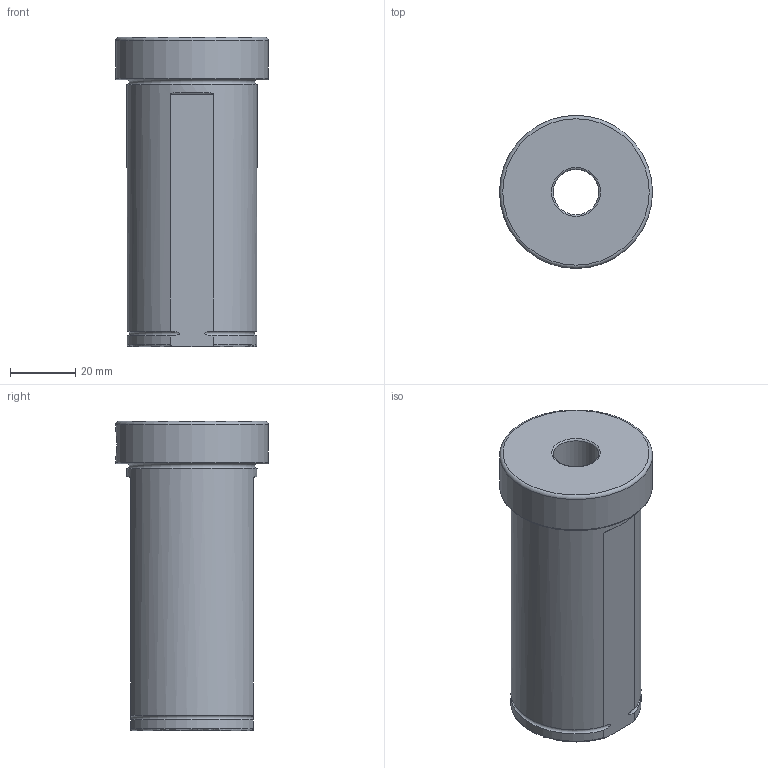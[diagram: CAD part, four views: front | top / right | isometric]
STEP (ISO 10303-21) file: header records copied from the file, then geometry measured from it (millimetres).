
FILE_DESCRIPTION(/* description */ (''),/* implementation_level */ '2;1');
FILE_NAME(/* name */ '',/* time_stamp */ '2025-04-15T13:06:58+03:00',/* author */ ('User'),/* organization */ (''),/* preprocessor_version */ 'ST-DEVELOPER v19.2',/* originating_system */ 'Autodesk Inventor 2024',/* authorisation */ '');
FILE_SCHEMA (('AUTOMOTIVE_DESIGN { 1 0 10303 214 3 1 1 }'));
Length unit declared in the file: millimetre
Products named in the file (1): Втулка переходная 
D40-d6
Bounding box: 47 x 47 x 95 mm (x, y, z)
Volume: 92533.9 mm3; surface area: 22103.9 mm2
Topology: 1 solids, 1 shells, 69 faces, 159 edges, 106 vertices
Faces by surface type: plane 39, cylinder 18, torus 11, bspline 1
Full cylindrical faces by diameter (mm): 7 x3, 7.2 x3, 8 x3, 14 x1, 24 x1, 26 x1, 40 x1, 47 x1
Entity records: 2341 total; most frequent: CARTESIAN_POINT 633, DIRECTION 339, ORIENTED_EDGE 318, EDGE_CURVE 159, AXIS2_PLACEMENT_3D 128, VERTEX_POINT 106, EDGE_LOOP 85, LINE 83
